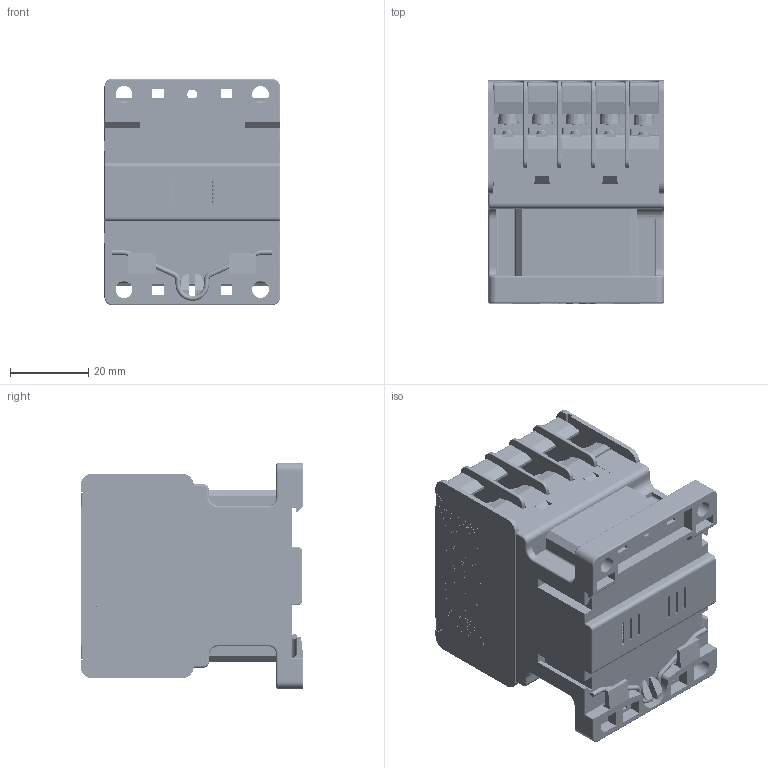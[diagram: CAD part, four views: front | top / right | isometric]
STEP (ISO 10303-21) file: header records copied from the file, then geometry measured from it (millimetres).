
FILE_DESCRIPTION((''),'2;1');
FILE_NAME('2TZD_400_6021_1_SW0001','2022-03-30T13:10:58',('ligang'),(''),'CREO PARAMETRIC BY PTC INC, 2020354','CREO PARAMETRIC BY PTC INC, 2020354','');
FILE_SCHEMA(('CONFIG_CONTROL_DESIGN'));
Products named in the file (1): 2TZD_400_6021_1_SW0001
Bounding box: 45.11 x 57.1 x 58 mm (x, y, z)
Volume: 46517.7 mm3; surface area: 76398 mm2
Topology: 2 solids, 2 shells, 8070 faces, 22522 edges, 14507 vertices
Faces by surface type: plane 5019, extrusion 1372, cylinder 1222, torus 304, cone 68, sphere 44, bspline 41
Entity records: 265249 total; most frequent: CARTESIAN_POINT 61882, ORIENTED_EDGE 45044, DIRECTION 36815, EDGE_CURVE 22522, VECTOR 17617, LINE 16245, VERTEX_POINT 14507, AXIS2_PLACEMENT_3D 9599
